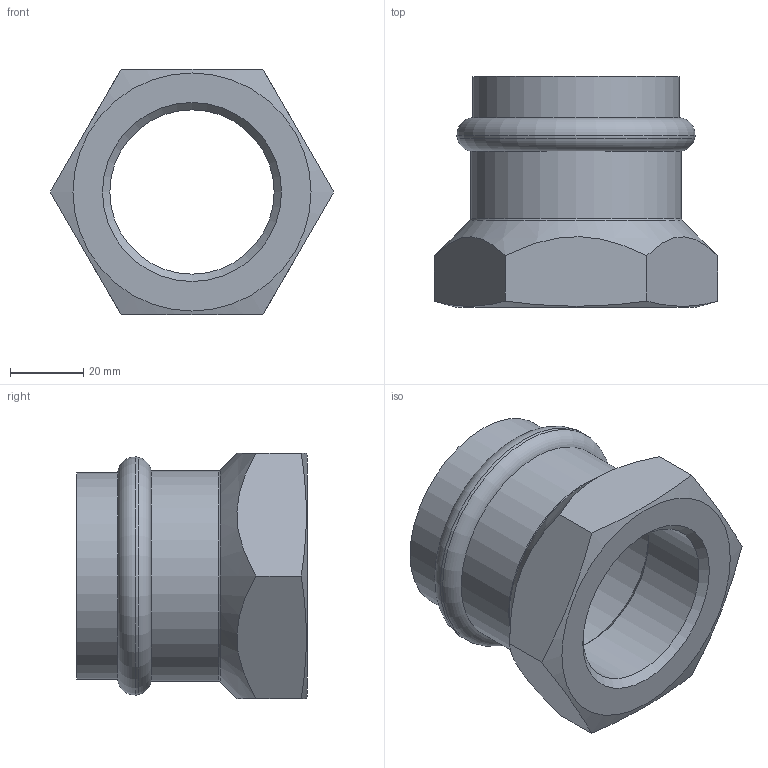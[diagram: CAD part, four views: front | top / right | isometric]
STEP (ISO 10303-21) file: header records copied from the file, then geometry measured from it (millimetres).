
FILE_DESCRIPTION(/* description */ (''),/* implementation_level */ '2;1');
FILE_NAME(/* name */ 'C:\Users\Vault\Desktop\Articoli_INOXPRES UNIKO\190_INOXPRES_UNIKO\190112054U_Inoxpres_Uniko.stp',/* time_stamp */ '2022-10-06T11:34:27+02:00',/* author */ ('Vault'),/* organization */ ('Raccorderie metalliche s.p.a. '),/* preprocessor_version */ 'ST-DEVELOPER v18.1',/* originating_system */ 'Autodesk Inventor 2020',/* authorisation */ 'Raccorderie metalliche s.p.a. ');
FILE_SCHEMA (('AUTOMOTIVE_DESIGN { 1 0 10303 214 3 1 1 }'));
Length unit declared in the file: millimetre
Products named in the file (1): 190112054V_Inoxpres_Uniko
Bounding box: 77.36 x 63 x 67 mm (x, y, z)
Volume: 63205.2 mm3; surface area: 26777.4 mm2
Topology: 1 solids, 1 shells, 26 faces, 71 edges, 48 vertices
Faces by surface type: plane 9, torus 6, cone 6, cylinder 5
Full cylindrical faces by diameter (mm): 44.845 x1, 54.5 x2, 56.3 x1, 57.5 x1
Entity records: 882 total; most frequent: CARTESIAN_POINT 174, DIRECTION 151, ORIENTED_EDGE 142, EDGE_CURVE 71, AXIS2_PLACEMENT_3D 67, VERTEX_POINT 48, CIRCLE 40, EDGE_LOOP 29
